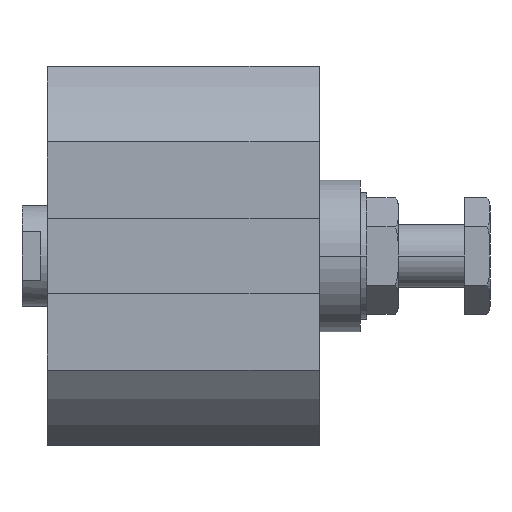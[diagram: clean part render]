
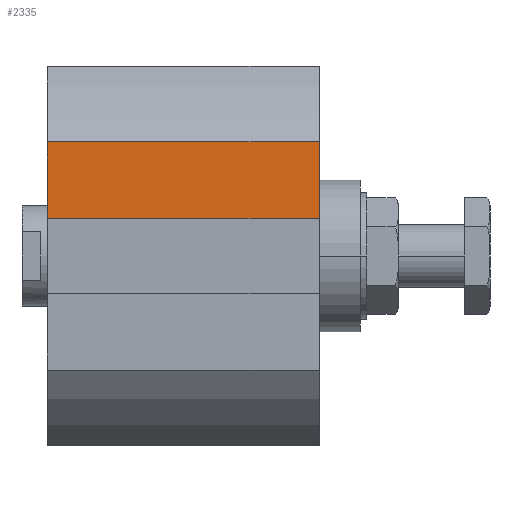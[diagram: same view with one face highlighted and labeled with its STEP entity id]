
A CAD part, left-side view. The second image highlights one B-rep face of the part: STEP entity #2335.
In plain terms, the highlighted planar face has unit normal (-1, 0, 0).
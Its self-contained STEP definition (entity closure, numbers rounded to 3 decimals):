
#14 = CARTESIAN_POINT ( 'NONE',  ( -30., -43., 18.028 ) ) ;
#193 = VECTOR ( 'NONE', #3198, 1000. ) ;
#301 = LINE ( 'NONE', #1739, #193 ) ;
#319 = EDGE_CURVE ( 'NONE', #4631, #632, #301, .T. ) ;
#481 = ORIENTED_EDGE ( 'NONE', *, *, #319, .T. ) ;
#632 = VERTEX_POINT ( 'NONE', #14 ) ;
#694 = DIRECTION ( 'NONE',  ( 0., 1., 0. ) ) ;
#735 = CARTESIAN_POINT ( 'NONE',  ( -30., -43., 18.028 ) ) ;
#741 = CARTESIAN_POINT ( 'NONE',  ( -30., -43., 0. ) ) ;
#1036 = DIRECTION ( 'NONE',  ( 0., 0., 1. ) ) ;
#1109 = DIRECTION ( 'NONE',  ( 0., 1., 0. ) ) ;
#1139 = PLANE ( 'NONE',  #3212 ) ;
#1584 = LINE ( 'NONE', #4785, #3643 ) ;
#1587 = LINE ( 'NONE', #2613, #2227 ) ;
#1739 = CARTESIAN_POINT ( 'NONE',  ( -30., -43., 0. ) ) ;
#1750 = EDGE_CURVE ( 'NONE', #632, #2110, #3640, .T. ) ;
#1786 = EDGE_LOOP ( 'NONE', ( #3191, #2080, #481, #3197 ) ) ;
#2080 = ORIENTED_EDGE ( 'NONE', *, *, #2247, .F. ) ;
#2110 = VERTEX_POINT ( 'NONE', #2184 ) ;
#2184 = CARTESIAN_POINT ( 'NONE',  ( -30., 0., 18.028 ) ) ;
#2227 = VECTOR ( 'NONE', #1109, 1000. ) ;
#2247 = EDGE_CURVE ( 'NONE', #4631, #3612, #1587, .T. ) ;
#2335 = ADVANCED_FACE ( 'NONE', ( #2765 ), #1139, .T. ) ;
#2613 = CARTESIAN_POINT ( 'NONE',  ( -30., -43., 6. ) ) ;
#2765 = FACE_OUTER_BOUND ( 'NONE', #1786, .T. ) ;
#2784 = CARTESIAN_POINT ( 'NONE',  ( -30., -43., 6. ) ) ;
#3029 = CARTESIAN_POINT ( 'NONE',  ( -30., 0., 6. ) ) ;
#3191 = ORIENTED_EDGE ( 'NONE', *, *, #3719, .F. ) ;
#3197 = ORIENTED_EDGE ( 'NONE', *, *, #1750, .T. ) ;
#3198 = DIRECTION ( 'NONE',  ( 0., 0., 1. ) ) ;
#3212 = AXIS2_PLACEMENT_3D ( 'NONE', #741, #4145, #4102 ) ;
#3612 = VERTEX_POINT ( 'NONE', #3029 ) ;
#3640 = LINE ( 'NONE', #735, #3891 ) ;
#3643 = VECTOR ( 'NONE', #1036, 1000. ) ;
#3719 = EDGE_CURVE ( 'NONE', #3612, #2110, #1584, .T. ) ;
#3891 = VECTOR ( 'NONE', #694, 1000. ) ;
#4102 = DIRECTION ( 'NONE',  ( 0., 0., 1. ) ) ;
#4145 = DIRECTION ( 'NONE',  ( -1., 0., 0. ) ) ;
#4631 = VERTEX_POINT ( 'NONE', #2784 ) ;
#4785 = CARTESIAN_POINT ( 'NONE',  ( -30., 0., 0. ) ) ;
